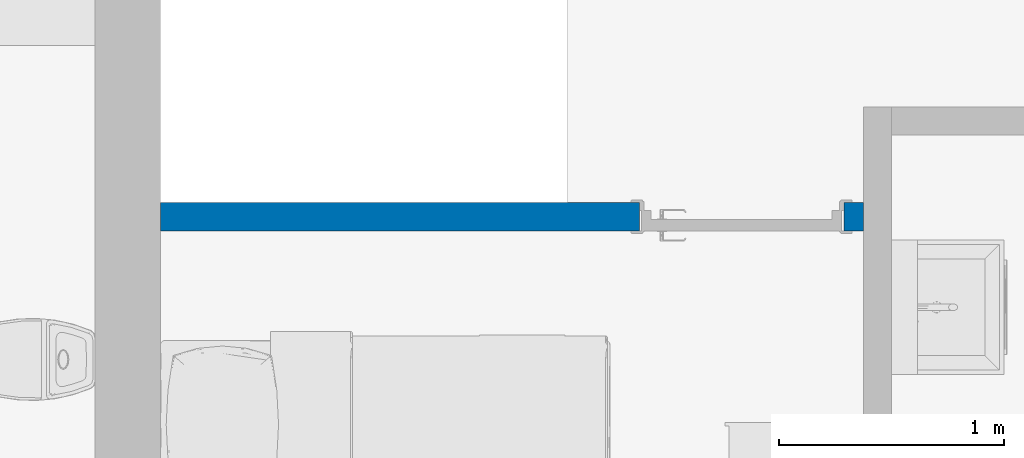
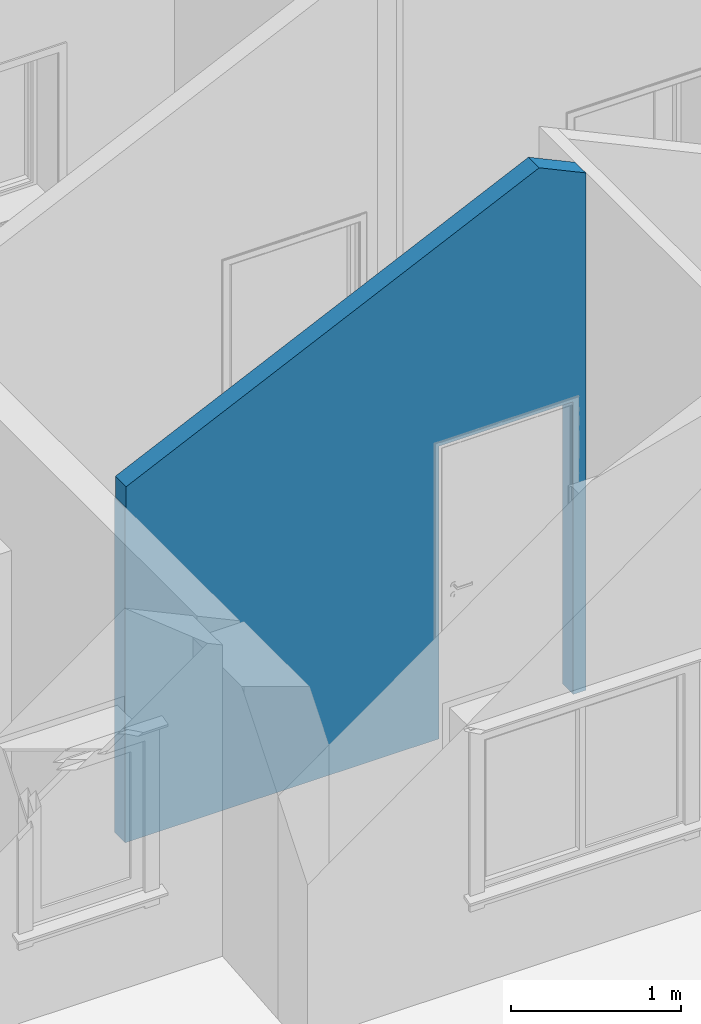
# One storey, part 24 of 44: 1 wall, 1 opening.
"""IFC2X3 building model written with IfcOpenShell, lengths in millimetres."""

import ifcopenshell
import ifcopenshell.guid

model = None  # the IFC model being written
_history = None  # IfcOwnerHistory: only IFC2X3 demands one
_inside = {}  # id of a spatial element -> (the spatial element, [elements in it])
_under = {}  # id of a project, library or spatial element -> (it, [spatial elements below it])
_declared = {}  # id of a project -> (the project, [libraries it declares])
_typed = {}  # id of a type object -> (the type object, [elements of that type])
_made_of = {}  # id of a material, layer set ... -> (it, [elements and type objects made of it])


def new_model(schema):
    """Start an empty IFC model of exactly this schema.

    Asked for "IFC4X3", IfcOpenShell would pick the latest addendum, in which some entities
    have other attributes; the version numbers below select the first issue.
    IFC2X3 requires an IfcOwnerHistory on every rooted entity: one is made here for all.
    """
    global model, _history
    if schema == "IFC4X3":
        model = ifcopenshell.file(schema_version=(4, 3, 0, 0))
    else:
        model = ifcopenshell.file(schema=schema)
    _inside.clear()
    _under.clear()
    _declared.clear()
    _typed.clear()
    _made_of.clear()
    _history = None
    if model.schema == "IFC2X3":
        org = make("IfcOrganization", Name="unknown")
        user = make(
            "IfcPersonAndOrganization",
            ThePerson=make("IfcPerson", FamilyName="unknown"),
            TheOrganization=org,
        )
        app = make(
            "IfcApplication",
            ApplicationDeveloper=org,
            Version="unknown",
            ApplicationFullName="unknown",
            ApplicationIdentifier="unknown",
        )
        _history = make(
            "IfcOwnerHistory",
            OwningUser=user,
            OwningApplication=app,
            ChangeAction="ADDED",
            CreationDate=0,
        )
    return model


def make(cls, **values):
    """One entity of the class cls with the attributes given. An attribute that is None is left unset."""
    return model.create_entity(
        cls, **{name: value for name, value in values.items() if value is not None}
    )


def entity(cls, *values):
    """Any entity or typed value of the class cls, its attributes in the order of the schema. None: left unset."""
    e = model.create_entity(cls)
    for i, value in enumerate(values):
        if value is not None:
            e[i] = value
    return e


def rooted(cls, **values):
    """An entity with a GlobalId (a new one), such as an element, a storey or a relation."""
    return make(cls, GlobalId=ifcopenshell.guid.new(), OwnerHistory=_history, **values)


def si_unit(unit_type, name, prefix=None):
    """IfcSIUnit, for example si_unit("LENGTHUNIT", "METRE", prefix="MILLI")."""
    return make("IfcSIUnit", UnitType=unit_type, Prefix=prefix, Name=name)


def converted_unit(unit_type, name, factor, base, dimensions=None, offset=None):
    """IfcConversionBasedUnit, such as the inch: factor (a typed value) times the base unit."""
    return make(
        "IfcConversionBasedUnit"
        if offset is None
        else "IfcConversionBasedUnitWithOffset",
        ConversionOffset=offset,
        Dimensions=None
        if dimensions is None
        else entity("IfcDimensionalExponents", *dimensions),
        UnitType=unit_type,
        Name=name,
        ConversionFactor=make(
            "IfcMeasureWithUnit", ValueComponent=factor, UnitComponent=base
        ),
    )


def assignment(units):
    """IfcUnitAssignment: the units of a project."""
    return None if units is None else make("IfcUnitAssignment", Units=units)


def point(xyz):
    """IfcCartesianPoint."""
    return None if xyz is None else make("IfcCartesianPoint", Coordinates=xyz)


def direction(xyz):
    """IfcDirection."""
    return None if xyz is None else make("IfcDirection", DirectionRatios=xyz)


def frame(location, z_axis=None, x_axis=None):
    """IfcAxis2Placement3D, a coordinate frame: its origin and axes. An axis left out is left unset."""
    return make(
        "IfcAxis2Placement3D",
        Location=point(location),
        Axis=direction(z_axis),
        RefDirection=direction(x_axis),
    )


def frame_2d(location, x_axis=None):
    """IfcAxis2Placement2D, a coordinate frame in the plane: its origin and x axis."""
    return make(
        "IfcAxis2Placement2D", Location=point(location), RefDirection=direction(x_axis)
    )


def origin():
    """The frame at (0, 0, 0) with its axes left unset."""
    return frame((0.0, 0.0, 0.0))


def place(relative_to, where):
    """IfcLocalPlacement: puts the frame where relative to a parent placement (None: the world)."""
    return make(
        "IfcLocalPlacement", PlacementRelTo=relative_to, RelativePlacement=where
    )


def context(
    kind, dimensions, precision=None, world=None, true_north=None, identifier=None
):
    """IfcGeometricRepresentationContext, for example the 3D "Model" context."""
    return make(
        "IfcGeometricRepresentationContext",
        ContextIdentifier=identifier,
        ContextType=kind,
        CoordinateSpaceDimension=dimensions,
        Precision=precision,
        WorldCoordinateSystem=world,
        TrueNorth=true_north,
    )


def subcontext(parent, identifier, kind, view, scale=None):
    """IfcGeometricRepresentationSubContext, for example "Body" below "Model"."""
    return make(
        "IfcGeometricRepresentationSubContext",
        ContextIdentifier=identifier,
        ContextType=kind,
        ParentContext=parent,
        TargetScale=scale,
        TargetView=view,
    )


def project(units=None, contexts=None):
    """IfcProject with its units and contexts."""
    return rooted(
        "IfcProject",
        Name="project",
        RepresentationContexts=contexts,
        UnitsInContext=assignment(units),
    )


def spatial(cls, under=None, at=None, **own):
    """A site, building, storey or space (cls), placed at a placement, below another one or the project."""
    s = rooted(cls, ObjectPlacement=at, **own)
    if under is not None:
        _under.setdefault(under.id(), (under, []))[1].append(s)
    return s


def polyline(points):
    """IfcPolyline through the points."""
    return make("IfcPolyline", Points=[point(p) for p in points])


def profile(cls, at=None, kind="AREA", **sizes):
    """A parametric profile (cls). Its sizes go by their IFC names, for example OverallWidth=200.0."""
    return make(cls, ProfileType=kind, Position=at, **sizes)


def rectangle(**sizes):
    """IfcRectangleProfileDef."""
    return profile("IfcRectangleProfileDef", **sizes)


def extrude(swept, where, along, depth):
    """IfcExtrudedAreaSolid: the profile swept, set in the frame where, extruded along a direction by depth."""
    return make(
        "IfcExtrudedAreaSolid",
        SweptArea=swept,
        Position=where,
        ExtrudedDirection=direction(along),
        Depth=depth,
    )


def clip(a, b, op="DIFFERENCE"):
    """IfcBooleanClippingResult: the solid a cut by the half space b."""
    return make(
        "IfcBooleanClippingResult", Operator=op, FirstOperand=a, SecondOperand=b
    )


def bounded_halfspace(plane, agree, where, boundary):
    """IfcPolygonalBoundedHalfSpace: a half space limited to a polygon's prism."""
    return make(
        "IfcPolygonalBoundedHalfSpace",
        BaseSurface=make("IfcPlane", Position=plane),
        AgreementFlag=agree,
        Position=where,
        PolygonalBoundary=boundary,
    )


def shape(context_of_items, identifier, shape_type, items):
    """IfcShapeRepresentation: the items that make up one representation, for example the "Body"."""
    return make(
        "IfcShapeRepresentation",
        ContextOfItems=context_of_items,
        RepresentationIdentifier=identifier,
        RepresentationType=shape_type,
        Items=items,
    )


def material(Name=None, Category=None):
    """IfcMaterial."""
    return make("IfcMaterial", Name=Name, Category=Category)


def layer(
    of_material, thickness, ventilated=None, Name=None, Category=None, Priority=None
):
    """IfcMaterialLayer: one layer of a wall or slab, of a material (None: an air gap)."""
    return make(
        "IfcMaterialLayer",
        Material=of_material,
        LayerThickness=thickness,
        IsVentilated=ventilated,
        Name=Name,
        Category=Category,
        Priority=Priority,
    )


def layer_set(layers, Name=None):
    """IfcMaterialLayerSet."""
    return make("IfcMaterialLayerSet", MaterialLayers=layers, LayerSetName=Name)


def layer_usage(for_layer_set, set_direction, sense, offset, extent=None):
    """IfcMaterialLayerSetUsage: how a layer set lies in its element."""
    return make(
        "IfcMaterialLayerSetUsage",
        ForLayerSet=for_layer_set,
        LayerSetDirection=set_direction,
        DirectionSense=sense,
        OffsetFromReferenceLine=offset,
        ReferenceExtent=extent,
    )


def made_of(thing, what):
    """Note that an element or type object is made of a material, layer set ...; save() writes the relation."""
    if what is not None:
        _made_of.setdefault(what.id(), (what, []))[1].append(thing)
    return thing


def type_object(cls, material=None, **own):
    """A type object (cls), such as IfcWallType, which elements share."""
    return made_of(rooted(cls, **own), material)


def element(
    cls,
    number,
    at=None,
    inside=None,
    cuts=None,
    type_object=None,
    material=None,
    context=None,
    identifier="Body",
    shape_type=None,
    held_by="IfcProductDefinitionShape",
    body=None,
    shapes=None,
    **own,
):
    """One element of the class cls, such as IfcWall. Its Tag is "e" and its number.

    at: its placement. inside: the storey or other place that contains it. cuts: it is an
    opening in that element (IfcRelVoidsElement). A single representation is given by context,
    identifier, shape_type and body (its items); several are given by shapes. held_by: the class
    of the entity that holds the representations. save() writes the other relations.
    """
    e = rooted(cls, Tag="e%d" % number, ObjectPlacement=at, **own)
    if body is not None:
        shapes = [shape(context, identifier, shape_type, body)]
    if shapes is not None:
        e.Representation = make(held_by, Representations=shapes)
    if inside is not None:
        _inside.setdefault(inside.id(), (inside, []))[1].append(e)
    if cuts is not None:
        rooted(
            "IfcRelVoidsElement", RelatingBuildingElement=cuts, RelatedOpeningElement=e
        )
    if type_object is not None:
        _typed.setdefault(type_object.id(), (type_object, []))[1].append(e)
    return made_of(e, material)


def aggregate(whole, parts):
    """IfcRelAggregates: a whole, such as a stair, and the parts it consists of."""
    return rooted("IfcRelAggregates", RelatingObject=whole, RelatedObjects=parts)


def save(model, path):
    """Write the relations noted so far, then the file.

    IfcRelAggregates (storeys below a building ...), IfcRelContainedInSpatialStructure (elements
    in a storey), IfcRelDefinesByType, IfcRelAssociatesMaterial and IfcRelDeclares: one each for
    every whole, place, type object, material and project.
    """
    for whole, parts in _under.values():
        aggregate(whole, parts)
    for where, things in _inside.values():
        rooted(
            "IfcRelContainedInSpatialStructure",
            RelatedElements=things,
            RelatingStructure=where,
        )
    for kind, things in _typed.values():
        rooted("IfcRelDefinesByType", RelatedObjects=things, RelatingType=kind)
    for what, things in _made_of.values():
        rooted("IfcRelAssociatesMaterial", RelatedObjects=things, RelatingMaterial=what)
    for by, libraries in _declared.values():
        rooted("IfcRelDeclares", RelatingContext=by, RelatedDefinitions=libraries)
    model.write(path)


model = new_model("IFC2X3")

# Units and contexts
model_context = context("Model", 3, precision=0.01, world=origin(), true_north=direction((0.0, 1.0)))
body_context = subcontext(model_context, "Body", "Model", "MODEL_VIEW")
ifc_project = project(units=[si_unit("LENGTHUNIT", "METRE", prefix="MILLI"), si_unit("AREAUNIT", "SQUARE_METRE"), si_unit("VOLUMEUNIT", "CUBIC_METRE"), converted_unit("PLANEANGLEUNIT", "DEGREE", entity("IfcPlaneAngleMeasure", 0.017453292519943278), si_unit("PLANEANGLEUNIT", "RADIAN"), dimensions=[0, 0, 0, 0, 0, 0, 0])], contexts=[model_context])

# Site, building, storey
site_placement = place(None, origin())
site = spatial("IfcSite", under=ifc_project, at=site_placement, Name="Default", CompositionType="ELEMENT")
building_placement = place(site_placement, origin())
building = spatial("IfcBuilding", under=site, at=building_placement, CompositionType="ELEMENT")
storey_placement = place(building_placement, frame((0.0, 0.0, 2681.0)))
storey = spatial("IfcBuildingStorey", under=building, at=storey_placement, Name="Et. 2", CompositionType="ELEMENT", Elevation=2681.0)

# Wall, opening
ifc_material_1 = material(Name="Vegg - Gips - Innvendig - Hvit")
ifc_layer_1 = layer(ifc_material_1, 13.000000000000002)
ifc_material_2 = material(Name="Vegg - Stender - Stål - Isolert")
ifc_layer_2 = layer(ifc_material_2, 100.0)
ifc_layer_3 = layer(ifc_material_1, 13.000000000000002)
ifc_layer_set = layer_set([ifc_layer_1, ifc_layer_2, ifc_layer_3], Name="Basic Wall:24-GSIG-13_100_13")
ifc_layer_usage = layer_usage(ifc_layer_set, "AXIS2", "NEGATIVE", 63.00000000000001)
wall_type = type_object("IfcWallType", Name="Basic Wall:24-GSIG-13_100_13", PredefinedType="STANDARD", material=ifc_layer_set)
wall_placement = place(storey_placement, frame((28324.009586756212, 11169.058719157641, 0.0)))
wall = element("IfcWallStandardCase", 1, at=wall_placement, inside=storey, type_object=wall_type, material=ifc_layer_usage, Name="Basic Wall:24-GSIG-13_100_13", context=body_context, shape_type="Clipping", body=[
    clip(clip(clip(extrude(rectangle(XDim=3127.9999999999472, YDim=126.00000000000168, at=frame_2d((1563.9999999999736, 4.973799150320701e-13), x_axis=(-1.0, 0.0))), origin(), (0.0, 0.0, 1.0), 3859.5429700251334), bounded_halfspace(frame((2811.0, -63.0, 3859.5429700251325), z_axis=(0.42261826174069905, 0.0, 0.9063077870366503), x_axis=(0.0, 1.0, 0.0)), False, frame((2811.0, -63.0, 3859.5429700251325)), polyline([(0.0, 0.0), (317.0, 0.0), (317.0, 126.0), (0.0, 126.0), (0.0, 0.0)]))), bounded_halfspace(frame((8.0, -63.0, 2552.4826042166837), z_axis=(-0.42261826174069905, 0.0, 0.9063077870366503), x_axis=(0.0, -1.0, 0.0)), False, frame((8.0, -63.0, 2552.4826042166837)), polyline([(0.0, 0.0), (2803.0, 0.0), (2803.0, 126.0), (0.0, 126.0), (0.0, 0.0)]))), bounded_halfspace(frame((0.0, -63.0, 2400.0), z_axis=(0.0, 0.0, 1.0), x_axis=(0.0, 1.0, 0.0)), False, frame((0.0, -63.0, 2400.0)), polyline([(0.0, 0.0), (8.0, 0.0), (8.0, 126.0), (0.0, 126.0), (0.0, 0.0)]))),
])
opening_placement = place(wall_placement, frame((3041.0, 63.0, 0.0)))
element("IfcOpeningElement", 2, at=opening_placement, cuts=wall, Name="ID Hel:9x21M:1", ObjectType="Opening", context=body_context, shape_type="SweptSolid", body=[
    extrude(rectangle(XDim=910.0000000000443, YDim=2100.0000000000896, at=frame_2d((1050.0000000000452, 455.00000000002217), x_axis=(0.0, -1.0))), frame((0.0, 0.0, 0.0), z_axis=(0.0, -1.0, 0.0), x_axis=(0.0, 0.0, 1.0)), (0.0, 0.0, 1.0), 126.00000000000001),
])

save(model, "model.ifc")
